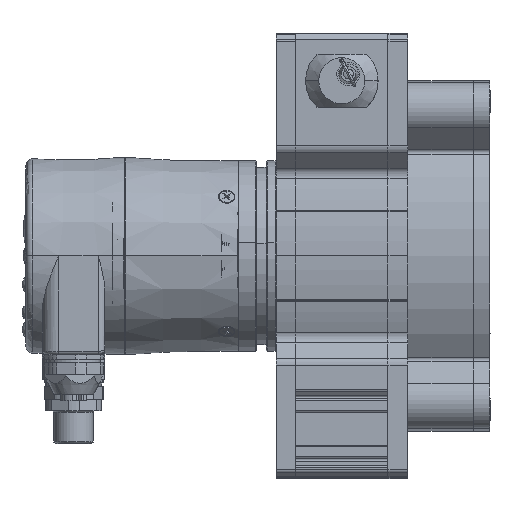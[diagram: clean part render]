
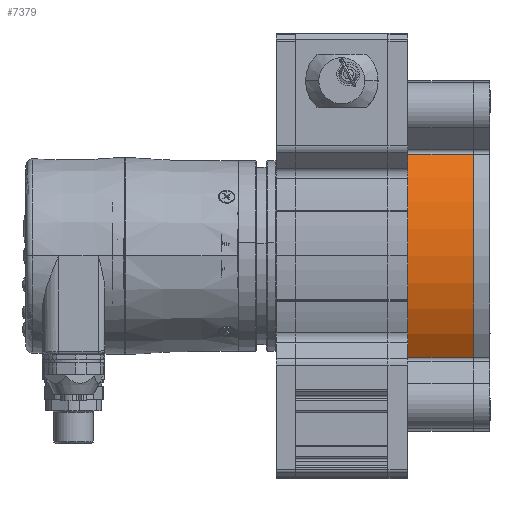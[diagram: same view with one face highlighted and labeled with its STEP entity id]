
A CAD part, top view. The second image highlights one B-rep face of the part: STEP entity #7379.
In plain terms, the highlighted cylindrical face has radius 53.25 mm (diameter 106.5 mm), a partial arc.
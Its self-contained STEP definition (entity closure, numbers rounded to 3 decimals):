
#7379 = ADVANCED_FACE ( 'NONE', ( #73875 ), #73912, .T. ) ;
#7381 = EDGE_LOOP ( 'NONE', ( #7466, #7399, #7407, #7453 ) ) ;
#7399 = ORIENTED_EDGE ( 'NONE', *, *, #7408, .T. ) ;
#7407 = ORIENTED_EDGE ( 'NONE', *, *, #76124, .T. ) ;
#7408 = EDGE_CURVE ( 'NONE', #63453, #76030, #74041, .T. ) ;
#7453 = ORIENTED_EDGE ( 'NONE', *, *, #7478, .F. ) ;
#7466 = ORIENTED_EDGE ( 'NONE', *, *, #63457, .T. ) ;
#7478 = EDGE_CURVE ( 'NONE', #63288, #63567, #74259, .T. ) ;
#59981 = CARTESIAN_POINT ( 'NONE',  ( 64.567, 69.367, 24.687 ) ) ;
#61128 = DIRECTION ( 'NONE',  ( -1., 0., 0. ) ) ;
#61130 = VECTOR ( 'NONE', #61128, 1000. ) ;
#61133 = CARTESIAN_POINT ( 'NONE',  ( -106.313, 69.367, 24.687 ) ) ;
#61135 = LINE ( 'NONE', #61133, #61130 ) ;
#61157 = CARTESIAN_POINT ( 'NONE',  ( 44.567, 69.367, 24.687 ) ) ;
#62384 = CARTESIAN_POINT ( 'NONE',  ( 64.567, 7.597, 24.687 ) ) ;
#63288 = VERTEX_POINT ( 'NONE', #59981 ) ;
#63453 = VERTEX_POINT ( 'NONE', #61157 ) ;
#63457 = EDGE_CURVE ( 'NONE', #63288, #63453, #61135, .T. ) ;
#63567 = VERTEX_POINT ( 'NONE', #62384 ) ;
#73875 = FACE_OUTER_BOUND ( 'NONE', #7381, .T. ) ;
#73907 = DIRECTION ( 'NONE',  ( 0., 1., 0. ) ) ;
#73908 = DIRECTION ( 'NONE',  ( -1., 0., 0. ) ) ;
#73909 = CARTESIAN_POINT ( 'NONE',  ( -106.313, 38.482, -18.691 ) ) ;
#73910 = AXIS2_PLACEMENT_3D ( 'NONE', #73909, #73908, #73907 ) ;
#73912 = CYLINDRICAL_SURFACE ( 'NONE', #73910, 53.25 ) ;
#74038 = DIRECTION ( 'NONE',  ( 0., 1., 0. ) ) ;
#74039 = DIRECTION ( 'NONE',  ( 1., 0., 0. ) ) ;
#74040 = AXIS2_PLACEMENT_3D ( 'NONE', #74045, #74039, #74038 ) ;
#74041 = CIRCLE ( 'NONE', #74040, 53.25 ) ;
#74045 = CARTESIAN_POINT ( 'NONE',  ( 44.567, 38.482, -18.691 ) ) ;
#74255 = DIRECTION ( 'NONE',  ( 0., 1., 0. ) ) ;
#74256 = DIRECTION ( 'NONE',  ( 1., 0., 0. ) ) ;
#74257 = CARTESIAN_POINT ( 'NONE',  ( 64.567, 38.482, -18.691 ) ) ;
#74258 = AXIS2_PLACEMENT_3D ( 'NONE', #74257, #74256, #74255 ) ;
#74259 = CIRCLE ( 'NONE', #74258, 53.25 ) ;
#76030 = VERTEX_POINT ( 'NONE', #90016 ) ;
#76124 = EDGE_CURVE ( 'NONE', #76030, #63567, #90169, .T. ) ;
#90016 = CARTESIAN_POINT ( 'NONE',  ( 44.567, 7.597, 24.687 ) ) ;
#90166 = DIRECTION ( 'NONE',  ( 1., 0., 0. ) ) ;
#90167 = VECTOR ( 'NONE', #90166, 1000. ) ;
#90168 = CARTESIAN_POINT ( 'NONE',  ( -106.313, 7.597, 24.687 ) ) ;
#90169 = LINE ( 'NONE', #90168, #90167 ) ;
